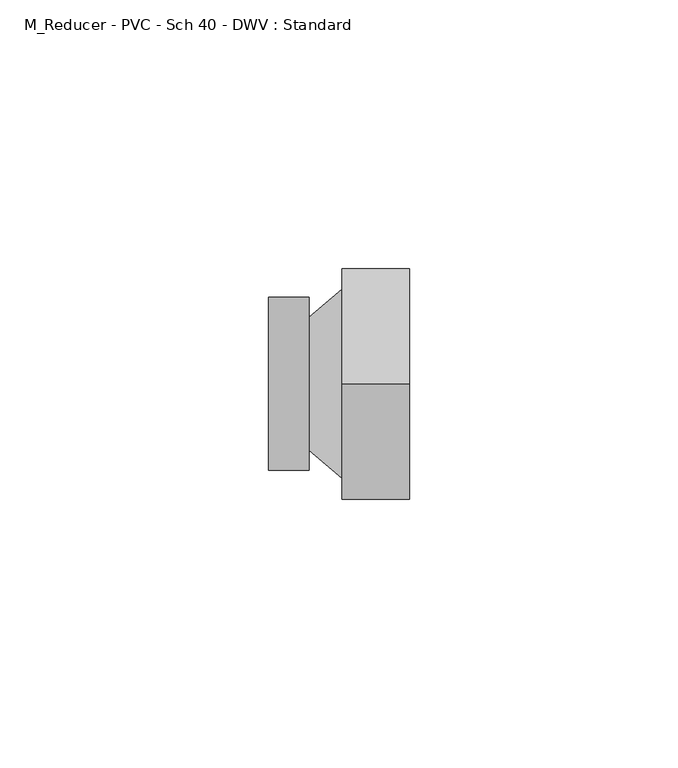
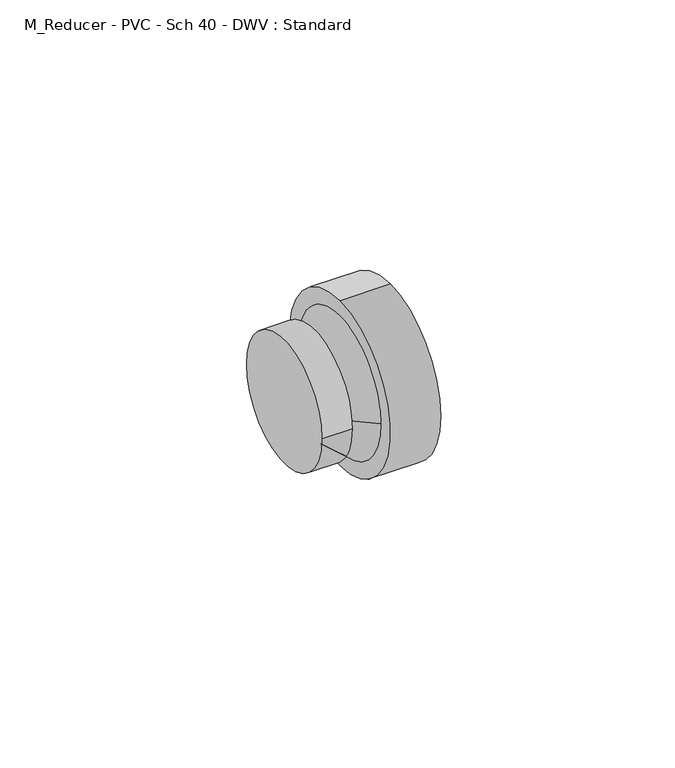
"""IFC4 building model written with IfcOpenShell, lengths in millimetres: pipe fitting geometry, M_Reducer - PVC - Sch 40 - DWV : Standard."""

from ifc_helpers import new_model, si_unit, frame, origin, place, context, project, spatial, polyline, circle_curve, source, transform, mapped, element, save
from ifc_brep_helpers import plane_surface, cylinder_surface, revolved_surface, advanced_brep


def m_reducer_pvc_sch_40_dwv_standard_ed73b344(model_context):
    return source(origin(), model_context, "Body", "AdvancedBrep", [
        advanced_brep(
        [(0.0, -16.0871094, 0.0), (0.0, 16.0871094, 0.0), (7.5, -16.0871094, 0.0), (7.5, 16.0871094, 0.0), (7.5, 12.3640625, 0.0), (7.5, -12.3640625, 0.0), (13.6960938, 17.5640625, 0.0), (13.6960937, -17.5640625, 0.0), (13.6960938, 0.0, 21.4871094), (13.6960938, 0.0, -21.4871094), (26.1960938, 0.0, 21.4871094), (26.1960938, 0.0, -21.4871094)],
        [
            (0, 1, circle_curve(frame((0.0, 0.0, 0.0), z_axis=(-1.0, 0.0, 0.0), x_axis=(0.0, 1.0, 0.0)), 16.0871094)),
            (1, 0, circle_curve(frame((0.0, 0.0, 0.0), z_axis=(-1.0, 0.0, 0.0), x_axis=(0.0, 1.0, 0.0)), 16.0871094)),
            (2, 3, circle_curve(frame((7.5, 0.0, 0.0), z_axis=(1.0, 0.0, 0.0), x_axis=(0.0, 1.0, 0.0)), 16.0871094)),
            (3, 2, circle_curve(frame((7.5, 0.0, 0.0), z_axis=(1.0, 0.0, 0.0), x_axis=(0.0, 1.0, 0.0)), 16.0871094)),
            (4, 5, circle_curve(frame((7.5, 0.0, 0.0), z_axis=(-1.0, 0.0, 0.0), x_axis=(0.0, -1.0, 0.0)), 12.3640625)),
            (5, 4, circle_curve(frame((7.5, 0.0, 0.0), z_axis=(-1.0, 0.0, 0.0), x_axis=(0.0, 1.0, 0.0)), 12.3640625)),
            (0, 2),
            (3, 1),
            (4, 6),
            (6, 7, circle_curve(frame((13.6960938, 0.0, 0.0), z_axis=(-1.0, 0.0, 0.0), x_axis=(0.0, -1.0, 0.0)), 17.5640625)),
            (7, 5),
            (7, 6, circle_curve(frame((13.6960938, 0.0, 0.0), z_axis=(-1.0, 0.0, 0.0), x_axis=(0.0, 1.0, 0.0)), 17.5640625)),
            (8, 9, circle_curve(frame((13.6960938, 0.0, 0.0), z_axis=(-1.0, 0.0, 0.0), x_axis=(0.0, 0.0, -1.0)), 21.4871094)),
            (9, 8, circle_curve(frame((13.6960938, 0.0, 0.0), z_axis=(-1.0, 0.0, 0.0), x_axis=(0.0, 0.0, -1.0)), 21.4871094)),
            (10, 11, circle_curve(frame((26.1960938, 0.0, 0.0), z_axis=(1.0, 0.0, 0.0), x_axis=(0.0, 0.0, -1.0)), 21.4871094)),
            (11, 10, circle_curve(frame((26.1960938, 0.0, 0.0), z_axis=(1.0, 0.0, 0.0), x_axis=(0.0, 0.0, -1.0)), 21.4871094)),
            (8, 10),
            (11, 9),
        ],
        [
            plane_surface(frame((0.0, 0.0, 0.0), z_axis=(-1.0, 0.0, 0.0), x_axis=(0.0, 0.0, 1.0))),
            plane_surface(frame((7.5, 0.0, 0.0), z_axis=(1.0, 0.0, 0.0), x_axis=(0.0, 0.0, 1.0))),
            cylinder_surface(frame((0.0, 0.0, 0.0), z_axis=(-1.0, 0.0, 0.0), x_axis=(0.0, 1.0, 0.0)), 16.0871094),
            revolved_surface(polyline([(7.5, 12.364062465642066, 0.0), (13.6960938, 17.5640625, 0.0)]), (-7.2324789, 0.0, 0.0), (1.0, 0.0, 0.0)),
            plane_surface(frame((13.6960938, 0.0, 0.0), z_axis=(-1.0, 0.0, 0.0), x_axis=(0.0, 1.0, 0.0))),
            plane_surface(frame((26.1960938, 0.0, 0.0), z_axis=(1.0, 0.0, 0.0), x_axis=(0.0, 1.0, 0.0))),
            cylinder_surface(frame((13.6960938, 0.0, 0.0), z_axis=(-1.0, 0.0, 0.0), x_axis=(0.0, 0.0, -1.0)), 21.4871094),
        ],
        [
            (0, [[1, 2]]),
            (1, [[3, 4], [5, 6]]),
            (2, [[-1, 7, -4, 8]]),
            (2, [[-2, -8, -3, -7]]),
            (3, [[9, 10, 11, -5]]),
            (3, [[-9, -6, -11, 12]]),
            (4, [[13, 14], [-10, -12]]),
            (5, [[15, 16]]),
            (6, [[-13, 17, -16, 18]]),
            (6, [[-14, -18, -15, -17]]),
        ],
    ),
    ])


if __name__ == "__main__":
    model = new_model("IFC4")
    model_context = context("Model", 3, world=origin())
    ifc_project = project(units=[si_unit("LENGTHUNIT", "METRE", prefix="MILLI")], contexts=[model_context])
    site = spatial("IfcSite", under=ifc_project)
    building = spatial("IfcBuilding", under=site)
    placement = place(None, origin())
    m_reducer_pvc_sch_40_dwv_standard_shape = m_reducer_pvc_sch_40_dwv_standard_ed73b344(model_context)
    element("IfcPipeFitting", 1, ObjectType="M_Reducer - PVC - Sch 40 - DWV : Standard", at=placement, inside=building, context=model_context, shape_type="MappedRepresentation", body=[
        mapped(m_reducer_pvc_sch_40_dwv_standard_shape, transform((0.0, 0.0, 0.0), x_axis=(1.0, 0.0, 0.0), y_axis=(0.0, 1.0, 0.0), z_axis=(0.0, 0.0, 1.0))),
    ])
    save(model, "model.ifc")
